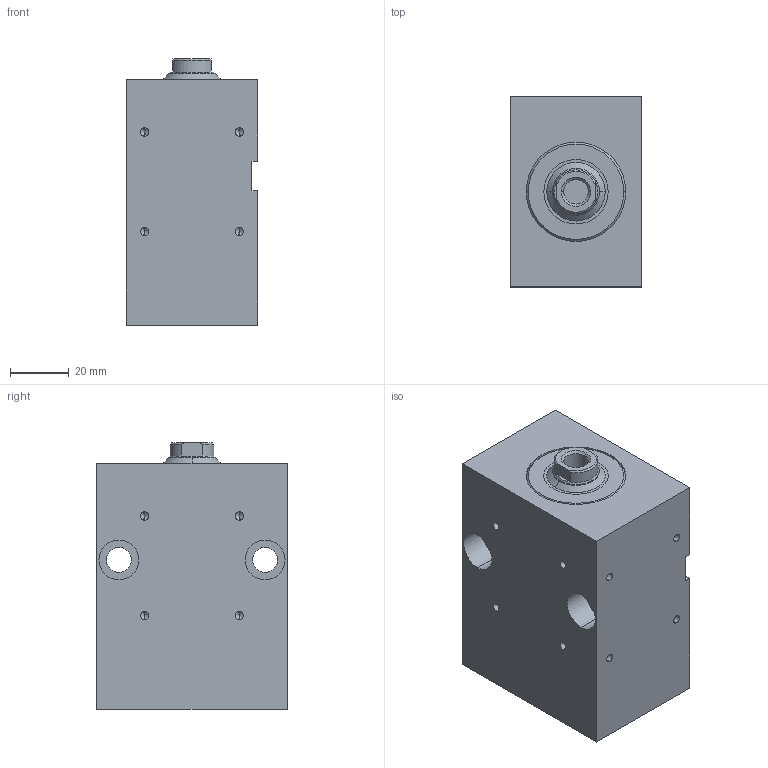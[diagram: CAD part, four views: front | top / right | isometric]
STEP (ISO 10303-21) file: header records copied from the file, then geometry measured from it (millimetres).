
FILE_DESCRIPTION (( 'STEP AP203' ), '1' );
FILE_NAME ('BZ_500.25_16.33.201.040 PP.NS33__DH_0_.STEP', '2022-05-10T12:59:11', ( '' ), ( '' ), 'SwSTEP 2.0', 'SolidWorks 2020', '' );
FILE_SCHEMA (( 'CONFIG_CONTROL_DESIGN' ));
Length unit declared in the file: millimetre
Products named in the file (7): _Verschraubung komplett mit Dichtung f. BZ_RZ_FZ.25_16.201, Art.-Nr._ 092861(201)^BZ_500.25_16.33.201.040 PP.NS33__DH_0_(2)_BZ_500.25_16.33.201.040 PP.NS33__DH_0_; BZ_500.25_16.33.201.040 PP.NS33__DH_0_(2)^BZ_500.25_16.33.201.040 PP.NS33__DH_0_; _Gehaeuse f. BZ500.25_16.33.201.40.N1.m (m = Nut spiegelbildlich33)Nut rechts, Senkungen links00(133frei1330220))7^BZ_500.25_16.33.201.040 PP.NS33__DH_0_(2)_BZ_500.25_16.33.201.040 PP.NS33__DH~; _Kolbenstange komplett f. BZ_RZ_FZ.25_16.xx.201.40(0_11 1 10 1.5 0 0 7 15 0 0 0)0^BZ_500.25_16.33.201.040 PP.NS33__DH_0_(2)_BZ_500.25_16.33.201.040 PP.NS33__DH_0_; _O-Ring 8x1.5 - Art. 020459^BZ_500.25_16.33.201.040 PP.NS33__DH_0_(2)_BZ_500.25_16.33.201.040 PP.NS33__DH_0_; _Dichtungssatz f. BZ_RZ_FZ.25_16.xx.201.40 Artikelnr._ 013322(0)^BZ_500.25_16.33.201.040 PP.NS33__DH_0_(2)_BZ_500.25_16.33.201.040 PP.NS33__DH_0_; BZ_500.25_16.33.201.040 PP.NS33__DH_0_
Assembly tree (7 placements, depth 3):
  BZ_500.25_16.33.201.040 PP.NS33__DH_0_
    BZ_500.25_16.33.201.040 PP.NS33__DH_0_(2)^BZ_500.25_16.33.201.040 PP.NS33__DH_0_
      _Gehaeuse f. BZ500.25_16.33.201.40.N1.m (m = Nut spiegelbildlich33)Nut rechts, Senkungen links00(133frei1330220))7^BZ_500.25_16.33.201.040 PP.NS33__DH_0_(2)_BZ_500.25_16.33.201.040 PP.NS33__DH~
      _Verschraubung komplett mit Dichtung f. BZ_RZ_FZ.25_16.201, Art.-Nr._ 092861(201)^BZ_500.25_16.33.201.040 PP.NS33__DH_0_(2)_BZ_500.25_16.33.201.040 PP.NS33__DH_0_
      _Dichtungssatz f. BZ_RZ_FZ.25_16.xx.201.40 Artikelnr._ 013322(0)^BZ_500.25_16.33.201.040 PP.NS33__DH_0_(2)_BZ_500.25_16.33.201.040 PP.NS33__DH_0_
      _Kolbenstange komplett f. BZ_RZ_FZ.25_16.xx.201.40(0_11 1 10 1.5 0 0 7 15 0 0 0)0^BZ_500.25_16.33.201.040 PP.NS33__DH_0_(2)_BZ_500.25_16.33.201.040 PP.NS33__DH_0_
      _O-Ring 8x1.5 - Art. 020459^BZ_500.25_16.33.201.040 PP.NS33__DH_0_(2)_BZ_500.25_16.33.201.040 PP.NS33__DH_0_  x2
Bounding box: 45 x 65 x 91 mm (x, y, z)
Volume: 225133.1 mm3; surface area: 46760.1 mm2
Topology: 6 solids, 6 shells, 154 faces, 353 edges, 209 vertices
Faces by surface type: cylinder 70, plane 38, cone 34, torus 12
Entity records: 4852 total; most frequent: DIRECTION 783, CARTESIAN_POINT 745, ORIENTED_EDGE 626, AXIS2_PLACEMENT_3D 323, EDGE_CURVE 313, VERTEX_POINT 199, EDGE_LOOP 182, CIRCLE 166
